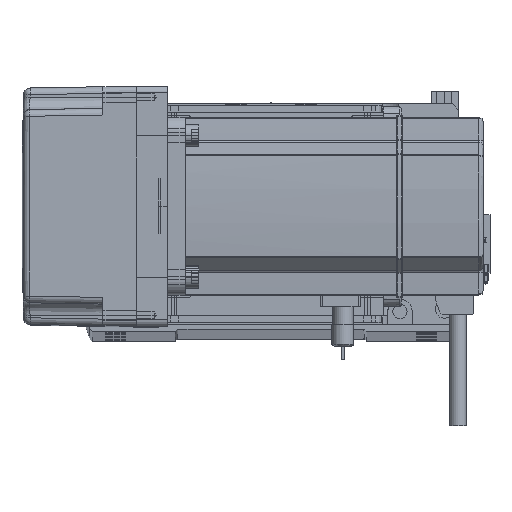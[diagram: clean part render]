
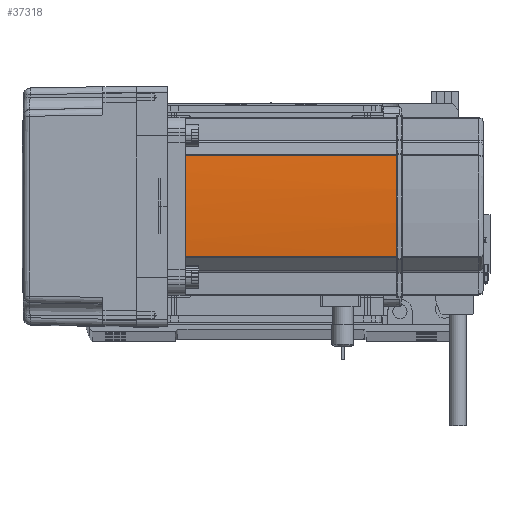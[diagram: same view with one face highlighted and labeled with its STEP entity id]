
A CAD part, top view. The second image highlights one B-rep face of the part: STEP entity #37318.
In plain terms, the highlighted cylindrical face has radius 270 mm (diameter 540 mm), a partial arc.
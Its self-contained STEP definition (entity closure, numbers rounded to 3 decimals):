
#16 = ORIENTED_EDGE ( 'NONE', *, *, #8186, .F. ) ;
#843 = CARTESIAN_POINT ( 'NONE',  ( 39.042, 22.724, 58. ) ) ;
#1489 = DIRECTION ( 'NONE',  ( -1., 0., 0. ) ) ;
#4079 = DIRECTION ( 'NONE',  ( -1., 0., 0. ) ) ;
#4177 = AXIS2_PLACEMENT_3D ( 'NONE', #46204, #55964, #1489 ) ;
#4558 = EDGE_CURVE ( 'NONE', #10225, #43320, #58021, .T. ) ;
#6008 = CARTESIAN_POINT ( 'NONE',  ( 40., 0.127, 134. ) ) ;
#8123 = EDGE_CURVE ( 'NONE', #50081, #48802, #48976, .T. ) ;
#8186 = EDGE_CURVE ( 'NONE', #20089, #16070, #30740, .T. ) ;
#8231 = EDGE_CURVE ( 'NONE', #48802, #16070, #17180, .T. ) ;
#9764 = CARTESIAN_POINT ( 'NONE',  ( 40., -0.127, 134. ) ) ;
#9985 = CARTESIAN_POINT ( 'NONE',  ( 40., 0.127, 134. ) ) ;
#10225 = VERTEX_POINT ( 'NONE', #42032 ) ;
#10407 = CARTESIAN_POINT ( 'NONE',  ( 40., -0.042, 134. ) ) ;
#10566 = EDGE_CURVE ( 'NONE', #20089, #10225, #60347, .T. ) ;
#12646 = AXIS2_PLACEMENT_3D ( 'NONE', #16064, #45574, #50756 ) ;
#15195 = DIRECTION ( 'NONE',  ( 0., 0., 1. ) ) ;
#16064 = CARTESIAN_POINT ( 'NONE',  ( -230., 0., 134. ) ) ;
#16070 = VERTEX_POINT ( 'NONE', #6008 ) ;
#17180 = CIRCLE ( 'NONE', #4177, 270. ) ;
#18174 = AXIS2_PLACEMENT_3D ( 'NONE', #54627, #54421, #40336 ) ;
#19220 = AXIS2_PLACEMENT_3D ( 'NONE', #30661, #25021, #4079 ) ;
#20089 = VERTEX_POINT ( 'NONE', #48046 ) ;
#22918 = CARTESIAN_POINT ( 'NONE',  ( 39.042, -22.724, 58. ) ) ;
#24580 = EDGE_LOOP ( 'NONE', ( #63325, #34145, #33305, #48607, #16, #38169 ) ) ;
#25021 = DIRECTION ( 'NONE',  ( 0., 0., -1. ) ) ;
#30661 = CARTESIAN_POINT ( 'NONE',  ( -230., 0., 39. ) ) ;
#30740 = B_SPLINE_CURVE_WITH_KNOTS ( 'NONE', 3,
 ( #9764, #10407, #54500, #9985 ),
 .UNSPECIFIED., .F., .F.,
 ( 4, 4 ),
 ( 0., 1. ),
 .UNSPECIFIED. ) ;
#31315 = CARTESIAN_POINT ( 'NONE',  ( 39.042, 22.724, 39. ) ) ;
#33305 = ORIENTED_EDGE ( 'NONE', *, *, #8123, .T. ) ;
#34145 = ORIENTED_EDGE ( 'NONE', *, *, #43095, .F. ) ;
#37318 = ADVANCED_FACE ( 'NONE', ( #37911 ), #40984, .T. ) ;
#37368 = CARTESIAN_POINT ( 'NONE',  ( 39.042, -22.724, 39. ) ) ;
#37911 = FACE_OUTER_BOUND ( 'NONE', #24580, .T. ) ;
#38169 = ORIENTED_EDGE ( 'NONE', *, *, #10566, .T. ) ;
#40336 = DIRECTION ( 'NONE',  ( -1., 0., 0. ) ) ;
#40984 = CYLINDRICAL_SURFACE ( 'NONE', #18174, 270. ) ;
#42032 = CARTESIAN_POINT ( 'NONE',  ( 39.042, -22.724, 134. ) ) ;
#42067 = VECTOR ( 'NONE', #15195, 1000. ) ;
#43095 = EDGE_CURVE ( 'NONE', #50081, #43320, #51738, .T. ) ;
#43320 = VERTEX_POINT ( 'NONE', #37368 ) ;
#45574 = DIRECTION ( 'NONE',  ( 0., 0., -1. ) ) ;
#46204 = CARTESIAN_POINT ( 'NONE',  ( -230., 0., 134. ) ) ;
#46395 = VECTOR ( 'NONE', #52771, 1000. ) ;
#48046 = CARTESIAN_POINT ( 'NONE',  ( 40., -0.127, 134. ) ) ;
#48607 = ORIENTED_EDGE ( 'NONE', *, *, #8231, .T. ) ;
#48802 = VERTEX_POINT ( 'NONE', #59773 ) ;
#48976 = LINE ( 'NONE', #843, #42067 ) ;
#50081 = VERTEX_POINT ( 'NONE', #31315 ) ;
#50756 = DIRECTION ( 'NONE',  ( -1., 0., 0. ) ) ;
#51738 = CIRCLE ( 'NONE', #19220, 270. ) ;
#52771 = DIRECTION ( 'NONE',  ( 0., 0., -1. ) ) ;
#54421 = DIRECTION ( 'NONE',  ( 0., 0., -1. ) ) ;
#54500 = CARTESIAN_POINT ( 'NONE',  ( 40., 0.042, 134. ) ) ;
#54627 = CARTESIAN_POINT ( 'NONE',  ( -230., 0., 58. ) ) ;
#55964 = DIRECTION ( 'NONE',  ( 0., 0., -1. ) ) ;
#58021 = LINE ( 'NONE', #22918, #46395 ) ;
#59773 = CARTESIAN_POINT ( 'NONE',  ( 39.042, 22.724, 134. ) ) ;
#60347 = CIRCLE ( 'NONE', #12646, 270. ) ;
#63325 = ORIENTED_EDGE ( 'NONE', *, *, #4558, .T. ) ;
